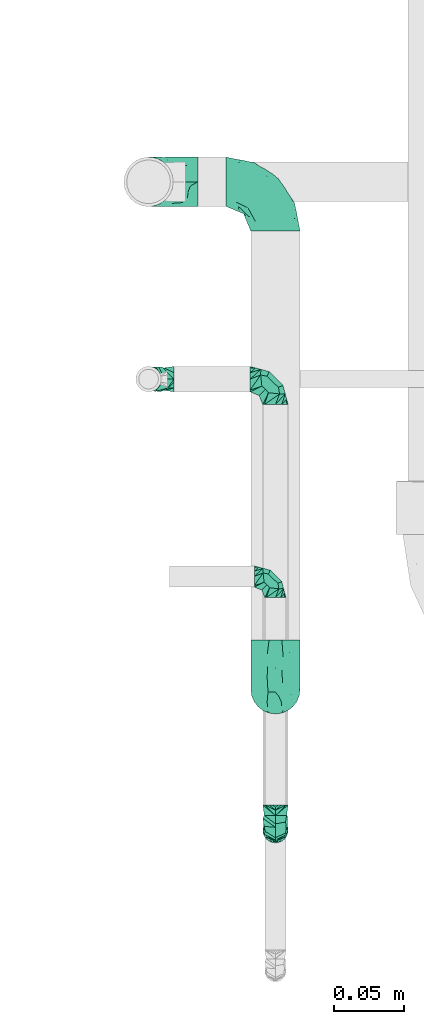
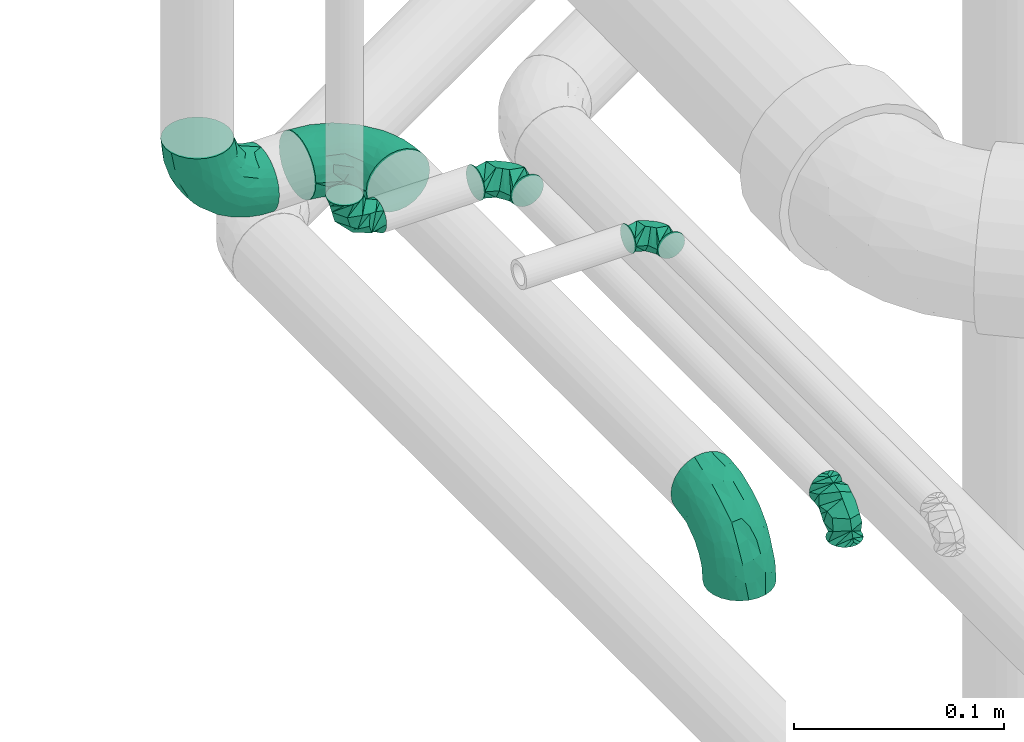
# One storey, part 70 of 108: 7 flow fittings.
"""IFC2X3 building model written with IfcOpenShell, lengths in millimetres."""

from ifc_helpers import new_model, entity, si_unit, converted_unit, derived_unit, direction, frame, origin_with_axes, place, context, subcontext, project, spatial, open_shell, surface_model, source, transform, mapped, type_object, element, save


model = new_model("IFC2X3")

# Units and contexts
model_context = context("Model", 3, precision=0.01, world=frame((0.0, 4.29681676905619e-09, 0.0)), true_north=direction((4.01073788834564e-13, 1.0)))
plan_context = context("Plan", 3, precision=0.01, world=frame((0.0, 4.29681676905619e-09, 0.0)), true_north=direction((4.01073788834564e-13, 1.0)))
body_context = subcontext(model_context, "Body", "Model", "MODEL_VIEW")
ifc_project = project(units=[converted_unit("PLANEANGLEUNIT", "DEGREE", entity("IfcPositiveLengthMeasure", 0.0174532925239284), si_unit("PLANEANGLEUNIT", "RADIAN"), dimensions=[0, 0, 0, 0, 0, 0, 0]), si_unit("AREAUNIT", "SQUARE_METRE"), si_unit("LENGTHUNIT", "METRE", prefix="MILLI"), si_unit("MASSUNIT", "GRAM", prefix="KILO"), si_unit("POWERUNIT", "WATT"), si_unit("PRESSUREUNIT", "PASCAL", prefix="KILO"), si_unit("FORCEUNIT", "NEWTON", prefix="KILO"), si_unit("ELECTRICVOLTAGEUNIT", "VOLT"), si_unit("ELECTRICCURRENTUNIT", "AMPERE"), si_unit("THERMODYNAMICTEMPERATUREUNIT", "DEGREE_CELSIUS"), si_unit("TIMEUNIT", "SECOND"), si_unit("VOLUMEUNIT", "CUBIC_METRE"), derived_unit("LINEARVELOCITYUNIT", [(si_unit("LENGTHUNIT", "METRE"), 1), (si_unit("TIMEUNIT", "SECOND"), -1)]), derived_unit("VOLUMETRICFLOWRATEUNIT", [(si_unit("VOLUMEUNIT", "CUBIC_METRE"), 1), (si_unit("TIMEUNIT", "SECOND"), -1)]), derived_unit("THERMALTRANSMITTANCEUNIT", [(si_unit("POWERUNIT", "WATT"), 1), (si_unit("THERMODYNAMICTEMPERATUREUNIT", "KELVIN"), -1), (si_unit("AREAUNIT", "SQUARE_METRE"), -1)]), derived_unit("SOUNDPRESSUREUNIT", [(si_unit("PRESSUREUNIT", "PASCAL"), 1)])], contexts=[model_context, plan_context])

# Site, building, storey
site_placement = place(None, frame((0.0, -4.29681676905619e-09, 0.0), z_axis=(0.0, 0.0, 1.0), x_axis=(1.0, 0.0, 0.0)))
site = spatial("IfcSite", under=ifc_project, at=site_placement, CompositionType="ELEMENT")
building_placement = place(site_placement, frame((0.0, 4.29681676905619e-09, 0.0), z_axis=(0.0, 0.0, 1.0), x_axis=(1.0, 0.0, 0.0)))
building = spatial("IfcBuilding", under=site, at=building_placement, Name="mc-building", CompositionType="ELEMENT")
storey_placement = place(building_placement, frame((0.0, 0.0, 210200.0), z_axis=(0.0, 0.0, 1.0), x_axis=(1.0, 0.0, 0.0)))
storey = spatial("IfcBuildingStorey", under=building, at=storey_placement, Name="Nivå F - 0,7 m", CompositionType="ELEMENT", Elevation=210200.0)

# Flow fittings
pipe_fitting_type = type_object("IfcPipeFittingType", Name="magi_pipe_elbow_short_001", PredefinedType="BEND")
shared_shape_1 = source(origin_with_axes(), body_context, "Body", "SurfaceModel", [
    surface_model("IfcShellBasedSurfaceModel", [(-15.0, 0.0, -7.5), (-15.0, -6.49519, -3.75), (-15.0, 1.94114, -7.24444), (-15.0, 3.75, -6.49519), (-15.0, 5.3033, -5.3033), (-15.0, 7.24444, -1.94114), (-15.0, 6.49519, -3.75), (-15.0, -5.3033, -5.3033), (-15.0, -3.75, -6.49519), (-15.0, -1.94114, -7.24444), (-15.0, -7.24444, -1.94114), (-15.0, -7.5, 0.0), (-15.0, -6.49519, 3.75), (-15.0, 7.24444, 1.94114), (-15.0, 6.49519, 3.75), (-15.0, 3.75, 6.49519), (-15.0, 1.94114, 7.24444), (-15.0, 5.3033, 5.3033), (-15.0, -5.3033, 5.3033), (-15.0, -7.24444, 1.94114), (-15.0, -1.94114, 7.24444), (-15.0, 0.0, 7.5), (-15.0, -3.75, 6.49519), (-15.0, 7.5, 0.0), (-1.94114, 15.0, -7.24444), (6.49519, 15.0, -3.75), (0.0, 15.0, -7.5), (-5.3033, 15.0, -5.3033), (-3.75, 15.0, -6.49519), (-6.49519, 15.0, -3.75), (-7.24444, 15.0, -1.94114), (3.75, 15.0, -6.49519), (5.3033, 15.0, -5.3033), (1.94114, 15.0, -7.24444), (7.5, 15.0, 0.0), (7.24444, 15.0, -1.94114), (-7.24444, 15.0, 1.94114), (6.49519, 15.0, 3.75), (-3.75, 15.0, 6.49519), (-6.49519, 15.0, 3.75), (-1.94114, 15.0, 7.24444), (-5.3033, 15.0, 5.3033), (5.3033, 15.0, 5.3033), (7.24444, 15.0, 1.94114), (3.75, 15.0, 6.49519), (0.0, 15.0, 7.5), (1.94114, 15.0, 7.24444), (-7.5, 15.0, 0.0), (-13.40845, -7.07355, 0.0), (-8.7589, -2.47707, 6.60232), (-8.6338, -5.79418, 0.0), (-3.75, -4.48557, 0.0), (0.36779, -0.36779, 0.0), (2.42668, 1.69111, 0.0), (-2.25176, 0.98822, 6.3797), (-1.69111, -2.42668, 0.0), (-11.8169, -6.64709, 0.0), (-5.9304, 5.9304, 7.17811), (-4.11647, 8.02676, 7.20749), (2.47708, 8.7589, 6.60232), (1.67739, 4.87408, 5.99192), (4.48557, 3.75, 0.0), (-4.78013, -1.73268, 5.91836), (7.07355, 13.40845, 0.0), (6.64709, 11.8169, 0.0), (-8.02675, 4.11647, 7.20749), (-8.59835, 12.34835, 0.0), (-12.34835, 8.59835, 0.0), (-9.6967, 9.6967, 0.0), (5.79418, 8.6338, 0.0), (-8.7589, -2.47707, -6.60232), (-4.11647, 8.02676, -7.20749), (0.71542, 3.43733, -5.99192), (-2.23993, 1.78364, -6.69976), (2.47708, 8.7589, -6.60232), (-11.39207, 6.08032, -5.22727), (-7.08629, 1.82323, -7.49084), (-8.19523, 6.76007, -6.13545)], [open_shell([[[0, 1, 2]], [[3, 2, 4]], [[5, 6, 4]], [[4, 2, 1]], [[5, 4, 1]], [[7, 1, 8]], [[9, 8, 1]], [[10, 11, 1]], [[0, 9, 1]], [[11, 12, 1]], [[12, 5, 1]], [[13, 5, 12]], [[14, 13, 15]], [[13, 16, 15]], [[17, 14, 15]], [[16, 13, 12]], [[12, 18, 16]], [[12, 11, 19]], [[20, 21, 22]], [[18, 22, 21]], [[16, 18, 21]], [[13, 23, 5]], [[24, 25, 26]], [[27, 24, 28]], [[27, 29, 30]], [[25, 24, 27]], [[25, 27, 30]], [[31, 25, 32]], [[25, 31, 33]], [[25, 34, 35]], [[25, 33, 26]], [[30, 34, 25]], [[30, 36, 34]], [[34, 36, 37]], [[38, 36, 39]], [[38, 40, 36]], [[38, 39, 41]], [[37, 36, 40]], [[40, 42, 37]], [[43, 34, 37]], [[44, 45, 46]], [[45, 44, 42]], [[45, 42, 40]], [[36, 30, 47]], [[19, 48, 12]], [[49, 50, 51]], [[52, 53, 54]], [[54, 55, 52]], [[22, 18, 56]], [[12, 56, 18]], [[57, 54, 58]], [[22, 50, 20]], [[21, 20, 50]], [[59, 60, 61]], [[59, 58, 60]], [[55, 54, 62]], [[21, 50, 49]], [[21, 49, 16]], [[62, 49, 51]], [[62, 51, 55]], [[37, 63, 43]], [[49, 15, 16]], [[64, 63, 37]], [[13, 65, 23]], [[14, 17, 49]], [[54, 65, 62]], [[15, 49, 17]], [[57, 58, 66]], [[67, 57, 68]], [[53, 60, 54]], [[46, 45, 69]], [[69, 44, 46]], [[41, 59, 38]], [[40, 59, 45]], [[42, 44, 64]], [[54, 60, 58]], [[64, 44, 69]], [[61, 60, 53]], [[43, 63, 34]], [[59, 61, 69]], [[58, 47, 66]], [[22, 56, 50]], [[54, 57, 65]], [[49, 65, 14]], [[36, 47, 58]], [[64, 37, 42]], [[39, 36, 58]], [[14, 65, 13]], [[41, 39, 59]], [[19, 11, 48]], [[39, 58, 59]], [[48, 56, 12]], [[38, 59, 40]], [[59, 69, 45]], [[49, 62, 65]], [[57, 67, 65]], [[66, 68, 57]], [[67, 23, 65]], [[70, 50, 0]], [[71, 72, 73]], [[74, 71, 29]], [[70, 2, 3]], [[70, 51, 50]], [[35, 34, 63]], [[75, 4, 6]], [[75, 5, 23]], [[6, 5, 75]], [[51, 76, 55]], [[75, 23, 67]], [[70, 4, 75]], [[48, 11, 10]], [[8, 56, 7]], [[0, 50, 9]], [[51, 70, 76]], [[56, 8, 50]], [[8, 9, 50]], [[70, 0, 2]], [[66, 47, 71]], [[52, 72, 53]], [[4, 70, 3]], [[70, 75, 76]], [[73, 52, 55]], [[71, 68, 66]], [[61, 53, 72]], [[31, 64, 69]], [[30, 71, 47]], [[27, 74, 29]], [[56, 1, 7]], [[28, 24, 74]], [[63, 64, 25]], [[56, 48, 1]], [[28, 74, 27]], [[1, 48, 10]], [[26, 74, 24]], [[33, 69, 26]], [[29, 71, 30]], [[32, 64, 31]], [[69, 33, 31]], [[68, 71, 77]], [[74, 26, 69]], [[25, 35, 63]], [[61, 72, 74]], [[61, 74, 69]], [[67, 77, 75]], [[74, 72, 71]], [[25, 64, 32]], [[76, 77, 73]], [[75, 77, 76]], [[77, 71, 73]], [[55, 76, 73]], [[72, 52, 73]], [[77, 67, 68]]])]),
])
flow_fitting_placement = place(storey_placement, frame((324128.525, 463170.0, 2783.44021999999), z_axis=(-0.000515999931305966, 0.0, 0.999999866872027), x_axis=(0.0, 1.0, 0.0)))
element("IfcFlowFitting", 1, at=flow_fitting_placement, inside=storey, type_object=pipe_fitting_type, Name="magi_pipe_elbow_short_001", context=body_context, shape_type="MappedRepresentation", body=[
    mapped(shared_shape_1, transform((0.0, 0.0, 0.0), scale=1.0)),
])
shared_shape_2 = source(origin_with_axes(), body_context, "Body", "SurfaceModel", [
    surface_model("IfcShellBasedSurfaceModel", [(-18.0, 4.5, -7.79423), (-18.0, 2.32937, -8.69333), (-18.0, 0.0, -9.0), (-18.0, -6.36396, -6.36396), (-18.0, 8.69333, -2.32937), (-18.0, 7.79423, -4.5), (-18.0, 6.36396, -6.36396), (-18.0, -4.5, -7.79423), (-18.0, -2.32937, -8.69333), (-18.0, -7.79423, -4.5), (-18.0, -8.69333, -2.32937), (-18.0, -9.0, 0.0), (-18.0, 8.69333, 2.32937), (-18.0, -8.69333, 2.32937), (-18.0, 7.79423, 4.5), (-18.0, 6.36396, 6.36396), (-18.0, 2.32937, 8.69333), (-18.0, 4.5, 7.79423), (-18.0, -7.79423, 4.5), (-18.0, -6.36396, 6.36396), (-18.0, -4.5, 7.79423), (-18.0, -2.32937, 8.69333), (-18.0, 0.0, 9.0), (-18.0, 9.0, 0.0), (0.0, 18.0, -9.0), (-2.32937, 18.0, -8.69333), (-4.5, 18.0, -7.79423), (6.36396, 18.0, -6.36396), (-7.79423, 18.0, -4.5), (-8.69333, 18.0, -2.32937), (-6.36396, 18.0, -6.36396), (8.69333, 18.0, 2.32937), (9.0, 18.0, 0.0), (2.32937, 18.0, -8.69333), (4.5, 18.0, -7.79423), (8.69333, 18.0, -2.32937), (7.79423, 18.0, -4.5), (-8.69333, 18.0, 2.32937), (-6.36396, 18.0, 6.36396), (-7.79423, 18.0, 4.5), (-4.5, 18.0, 7.79423), (-2.32937, 18.0, 8.69333), (7.79423, 18.0, 4.5), (6.36396, 18.0, 6.36396), (2.32937, 18.0, 8.69333), (4.5, 18.0, 7.79423), (0.0, 18.0, 9.0), (-9.0, 18.0, 0.0), (-16.09014, -8.48825, 0.0), (-10.51068, -2.97249, 7.92278), (-10.36056, -6.95302, 0.0), (-4.5, -5.38269, 0.0), (0.44134, -0.44134, 0.0), (2.91201, 2.02933, 0.0), (-2.70211, 1.18586, 7.65564), (-2.02933, -2.91201, 0.0), (-14.18028, -7.97651, 0.0), (-7.11648, 7.11648, 8.61373), (-4.93977, 9.63211, 8.64898), (2.97249, 10.51068, 7.92278), (2.01286, 5.84889, 7.1903), (5.38269, 4.5, 0.0), (-5.73616, -2.07922, 7.10204), (8.48825, 16.09014, 0.0), (7.97651, 14.18028, 0.0), (-9.63211, 4.93977, 8.64898), (-10.31802, 14.81802, 0.0), (-14.81802, 10.31802, 0.0), (-11.63604, 11.63604, 0.0), (6.95302, 10.36056, 0.0), (-10.51068, -2.97249, -7.92278), (-4.93977, 9.63211, -8.64898), (0.8585, 4.1248, -7.1903), (-2.68792, 2.14037, -8.03971), (2.97249, 10.51068, -7.92278), (-13.67048, 7.29638, -6.27272), (-8.50355, 2.18787, -8.98901), (-9.83427, 8.11209, -7.36254)], [open_shell([[[0, 1, 2]], [[0, 2, 3]], [[0, 4, 5]], [[6, 0, 5]], [[4, 0, 3]], [[7, 3, 8]], [[3, 2, 8]], [[9, 10, 3]], [[11, 3, 10]], [[3, 11, 4]], [[11, 12, 4]], [[12, 11, 13]], [[14, 12, 15]], [[16, 17, 15]], [[13, 15, 12]], [[15, 18, 16]], [[18, 19, 16]], [[15, 13, 18]], [[20, 21, 19]], [[22, 19, 21]], [[16, 19, 22]], [[23, 4, 12]], [[24, 25, 26]], [[27, 24, 26]], [[28, 29, 26]], [[28, 26, 30]], [[31, 32, 26]], [[33, 27, 34]], [[33, 24, 27]], [[27, 35, 36]], [[35, 27, 32]], [[26, 32, 27]], [[26, 29, 37]], [[31, 26, 37]], [[38, 37, 39]], [[38, 40, 41]], [[37, 38, 31]], [[41, 42, 38]], [[41, 43, 42]], [[42, 31, 38]], [[43, 44, 45]], [[44, 43, 46]], [[46, 43, 41]], [[37, 29, 47]], [[13, 48, 18]], [[49, 50, 51]], [[52, 53, 54]], [[54, 55, 52]], [[20, 19, 56]], [[18, 56, 19]], [[57, 54, 58]], [[20, 50, 21]], [[22, 21, 50]], [[59, 60, 61]], [[59, 58, 60]], [[55, 54, 62]], [[22, 50, 49]], [[22, 49, 16]], [[62, 49, 51]], [[62, 51, 55]], [[42, 63, 31]], [[49, 17, 16]], [[64, 63, 42]], [[12, 65, 23]], [[14, 15, 49]], [[54, 65, 62]], [[17, 49, 15]], [[57, 58, 66]], [[67, 57, 68]], [[53, 60, 54]], [[44, 46, 69]], [[69, 45, 44]], [[38, 59, 40]], [[41, 59, 46]], [[43, 45, 64]], [[54, 60, 58]], [[64, 45, 69]], [[61, 60, 53]], [[31, 63, 32]], [[59, 61, 69]], [[58, 47, 66]], [[20, 56, 50]], [[54, 57, 65]], [[49, 65, 14]], [[37, 47, 58]], [[64, 42, 43]], [[39, 37, 58]], [[14, 65, 12]], [[38, 39, 59]], [[13, 11, 48]], [[39, 58, 59]], [[48, 56, 18]], [[40, 59, 41]], [[59, 69, 46]], [[49, 62, 65]], [[57, 67, 65]], [[66, 68, 57]], [[67, 23, 65]], [[70, 50, 2]], [[71, 72, 73]], [[74, 71, 28]], [[70, 1, 0]], [[70, 51, 50]], [[35, 32, 63]], [[75, 6, 5]], [[75, 4, 23]], [[5, 4, 75]], [[51, 76, 55]], [[75, 23, 67]], [[70, 6, 75]], [[48, 11, 10]], [[7, 56, 3]], [[2, 50, 8]], [[51, 70, 76]], [[56, 7, 50]], [[7, 8, 50]], [[70, 2, 1]], [[66, 47, 71]], [[52, 72, 53]], [[6, 70, 0]], [[70, 75, 76]], [[73, 52, 55]], [[71, 68, 66]], [[61, 53, 72]], [[34, 64, 69]], [[29, 71, 47]], [[30, 74, 28]], [[56, 9, 3]], [[26, 25, 74]], [[63, 64, 36]], [[56, 48, 9]], [[26, 74, 30]], [[9, 48, 10]], [[24, 74, 25]], [[33, 69, 24]], [[28, 71, 29]], [[27, 64, 34]], [[69, 33, 34]], [[68, 71, 77]], [[74, 24, 69]], [[36, 35, 63]], [[61, 72, 74]], [[61, 74, 69]], [[67, 77, 75]], [[74, 72, 71]], [[36, 64, 27]], [[76, 77, 73]], [[75, 77, 76]], [[77, 71, 73]], [[55, 76, 73]], [[72, 52, 73]], [[77, 67, 68]]])]),
])
for number, where, z_axis, x_axis, name in (
    (2, (324128.525, 463310.0, 2732.14094000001), (0.0, 0.0, 1.0), (0.0, 1.0, 0.0), "magi_pipe_elbow_short_001"),
    (3, (324038.4875, 463310.0, 2732.14094000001), (0.0, 1.0, 0.0), (-1.0, 0.0, 0.0), "magi_pipe_elbow_short_001"),
    (4, (324128.525, 462990.0, 2732.14094000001), (1.0, 0.0, 0.0), (0.0, -1.0, 0.0), "magi_pipe_elbow_short_001"),
):
    element("IfcFlowFitting", number, at=place(storey_placement, frame(where, z_axis=z_axis, x_axis=x_axis)), inside=storey, type_object=pipe_fitting_type, Name=name, context=body_context, shape_type="MappedRepresentation", body=[
        mapped(shared_shape_2, transform((0.0, 0.0, 0.0), scale=1.0)),
    ])
shared_shape_3 = source(origin_with_axes(), body_context, "Body", "SurfaceModel", [
    surface_model("IfcShellBasedSurfaceModel", [(-35.0, 8.75, -15.15544), (-35.0, 4.52933, -16.9037), (-35.0, 0.0, -17.5), (-35.0, 12.37437, -12.37437), (-35.0, 15.15544, -8.75), (-35.0, -8.75, -15.15544), (-35.0, -8.75, 15.15544), (-35.0, -12.37437, -12.37437), (-35.0, -4.52933, -16.9037), (-35.0, -16.9037, -4.52933), (-35.0, -17.5, 0.0), (-35.0, -15.15544, -8.75), (-35.0, -16.9037, 4.52933), (-35.0, 17.5, 0.0), (-35.0, 16.9037, -4.52933), (-35.0, 12.37437, 12.37437), (-35.0, 16.9037, 4.52933), (-35.0, 15.15544, 8.75), (-35.0, 4.52933, 16.9037), (-35.0, 8.75, 15.15544), (-35.0, 0.0, 17.5), (-35.0, -15.15544, 8.75), (-35.0, -12.37437, 12.37437), (-35.0, -4.52933, 16.9037), (0.0, 35.0, -17.5), (-4.52933, 35.0, -16.9037), (-8.75, 35.0, -15.15544), (-16.9037, 35.0, -4.52933), (-15.15544, 35.0, -8.75), (-12.37437, 35.0, -12.37437), (12.37437, 35.0, -12.37437), (16.9037, 35.0, 4.52933), (8.75, 35.0, -15.15544), (4.52933, 35.0, -16.9037), (15.15544, 35.0, -8.75), (17.5, 35.0, 0.0), (16.9037, 35.0, -4.52933), (-16.9037, 35.0, 4.52933), (-12.37437, 35.0, 12.37437), (-15.15544, 35.0, 8.75), (-8.75, 35.0, 15.15544), (-4.52933, 35.0, 16.9037), (12.37437, 35.0, 12.37437), (15.15544, 35.0, 8.75), (8.75, 35.0, 15.15544), (0.0, 35.0, 17.5), (4.52933, 35.0, 16.9037), (-17.5, 35.0, 0.0), (-25.67415, -13.59559, 9.82403), (-22.98078, -10.09634, 13.04024), (-24.95456, -15.50184, 0.0), (-15.46973, -11.14466, 8.83253), (-23.25837, -15.27419, 5.4579), (15.27419, 23.25837, 5.4579), (12.34847, 13.7089, 4.48617), (13.50368, 14.90912, 0.0), (7.98773, 14.17445, 11.96929), (10.09634, 22.98078, 13.04024), (4.24731, 13.52067, 14.53865), (-25.72197, -6.61751, 15.74462), (-26.7344, -2.31827, 17.20071), (-24.50568, 2.68251, 17.47017), (-27.44516, 14.56448, 11.47495), (-25.07215, 18.29076, 8.00088), (-30.6355, 16.43299, 7.25145), (-6.39301, -7.81339, 0.0), (-13.7089, -12.34847, 4.48617), (-14.90912, -13.50368, 0.0), (-18.44681, 19.54381, 12.39604), (-6.53243, 30.18634, 16.39188), (-2.39845, 26.17753, 17.45702), (-30.27731, 10.5977, 14.25942), (-1.50603, -2.9583, 7.8851), (-0.29331, 0.3611, 10.4535), (-5.9488, -4.19077, 10.78186), (-4.56799, 11.72104, 17.18321), (-8.69539, 3.21041, 16.34147), (-1.78778, 9.45477, 16.08229), (-18.0168, 25.63227, 7.92136), (-27.12223, 20.76308, 0.0), (-29.14442, 17.91065, 4.40976), (-26.97638, 6.86342, 16.53125), (-6.08206, 17.20948, 17.4686), (-12.9625, 12.9625, 17.07479), (-10.42039, 7.64736, 17.40986), (-3.126, 3.126, 14.30773), (-13.52067, -4.24732, 14.53865), (-17.42289, -0.15705, 16.96193), (11.14466, 15.46973, 8.83253), (13.59559, 25.67415, 9.82403), (6.61751, 25.72197, 15.74462), (2.31827, 26.7344, 17.20071), (-14.17445, -7.98773, 11.96929), (15.50184, 24.95456, 0.0), (-7.56843, 23.71293, 16.6663), (-11.05874, 27.1034, 14.50532), (-13.23678, 18.91785, 15.59535), (-14.3786, 23.24943, 13.39158), (-18.69025, 15.70341, 14.54296), (-23.93728, 20.79474, 4.17293), (-22.62563, 22.62563, 0.0), (-19.21704, 26.38748, 4.0702), (-14.44673, 27.90403, 11.42459), (-19.23031, 7.49607, 17.18683), (-17.1721, 4.28825, 17.49253), (-18.60453, 11.87421, 16.18647), (-10.19404, 18.16587, 16.76415), (0.15705, 17.42289, 16.96193), (-24.0983, 11.8793, 14.7368), (3.98505, 6.07834, 11.08478), (-8.30597, -7.81197, 8.21438), (1.03907, -2.27302, 4.73653), (5.31423, 3.11691, 6.11155), (5.42771, 1.81659, 2.62257), (9.0136, 7.29975, 4.13354), (-20.76308, 27.12223, 0.0), (8.78644, 9.07824, 7.34478), (-4.71659, -6.95924, 5.08102), (2.12311, -2.12311, 0.0), (7.81339, 6.39301, 0.0), (-27.70384, 2.21276, -17.44304), (-15.139, 25.6163, -11.67774), (-29.4629, -13.93098, -10.16755), (-26.92794, 6.87113, -16.53331), (-23.88622, 20.75741, -4.41333), (-14.29664, -4.41648, -14.68212), (-15.19601, -0.21829, -16.64455), (-7.03127, -0.29284, -14.33943), (-25.40695, 11.47437, -14.63597), (-27.66913, 14.50571, -11.45035), (10.45516, 25.31793, -13.21276), (6.03943, 22.16202, -15.56409), (6.89903, 29.55572, -15.927), (-21.10543, 16.03689, -13.19848), (12.97763, 21.9883, -9.47862), (12.99032, 16.23155, -5.74578), (10.09843, 13.35052, -8.97101), (-16.20755, 20.33949, -13.47528), (-12.46256, 21.39865, -15.19771), (-16.17359, 16.17359, -15.36562), (-26.47317, -15.80391, 0.0), (-25.52983, -15.66647, -5.70515), (13.93098, 29.4629, -10.16755), (15.66647, 25.52983, -5.70515), (-7.61553, -8.60518, -5.85642), (-16.23155, -12.99032, -5.74578), (-25.31793, -10.45516, -13.21276), (0.17109, 0.42769, -10.06227), (-5.90918, -5.51991, -9.20861), (-5.32113, -2.45619, -11.9452), (-21.9883, -12.97763, -9.47862), (0.73672, 8.22048, -14.5942), (0.21829, 15.19601, -16.64455), (3.61692, 14.93995, -15.28797), (-25.7831, -2.20653, -17.18003), (-29.55572, -6.89903, -15.927), (-19.09867, -7.99059, -13.74068), (2.20653, 25.7831, -17.18003), (-29.66035, 18.06344, -2.9959), (1.76053, -1.33292, -5.27593), (-17.15897, 27.77164, -7.62747), (-18.31862, 28.40001, -3.89769), (-13.35052, -10.09843, -8.97101), (-6.17792, 6.17792, -16.5247), (-21.26622, 20.80683, -8.58416), (-2.21276, 27.70384, -17.44304), (-7.14365, 25.46075, -16.59474), (-10.98399, 27.47352, -14.47678), (-22.16202, -6.03943, -15.56409), (3.03601, 6.10561, -11.96956), (7.13869, 13.06641, -12.24206), (5.77868, 6.1646, -9.10678), (-4.13696, 19.27897, -17.49622), (8.60518, 7.61553, -5.85642), (-9.46274, 10.21159, -17.49007), (-10.35485, 16.58999, -16.97913), (-17.27815, 10.12754, -16.92218), (-27.97841, 17.20134, -7.38292), (15.80391, 26.47317, 0.0), (-19.27898, 4.13695, -17.49622), (-20.06282, 28.81281, 0.0), (-13.06641, -7.13869, -12.24206), (-19.51618, 19.81971, -11.35476)], [open_shell([[[0, 1, 2]], [[3, 0, 2]], [[4, 3, 5]], [[2, 5, 3]], [[6, 4, 5]], [[7, 6, 5]], [[2, 8, 5]], [[9, 10, 11]], [[11, 10, 12]], [[11, 12, 7]], [[13, 14, 4]], [[4, 15, 16]], [[17, 16, 15]], [[18, 19, 15]], [[4, 6, 15]], [[15, 20, 18]], [[21, 22, 12]], [[6, 12, 22]], [[23, 20, 6]], [[6, 7, 12]], [[6, 20, 15]], [[13, 4, 16]], [[24, 25, 26]], [[24, 26, 27]], [[28, 27, 26]], [[28, 26, 29]], [[30, 24, 31]], [[24, 32, 33]], [[24, 30, 32]], [[34, 35, 36]], [[31, 35, 34]], [[34, 30, 31]], [[31, 24, 27]], [[31, 27, 37]], [[38, 37, 39]], [[38, 40, 41]], [[37, 38, 31]], [[41, 31, 38]], [[31, 42, 43]], [[42, 31, 44]], [[44, 45, 46]], [[45, 44, 31]], [[31, 41, 45]], [[37, 27, 47]], [[22, 48, 49]], [[12, 10, 50]], [[51, 48, 52]], [[53, 54, 55]], [[48, 22, 21]], [[12, 52, 21]], [[56, 57, 58]], [[49, 6, 22]], [[49, 59, 6]], [[20, 60, 61]], [[62, 63, 64]], [[65, 66, 67]], [[57, 42, 44]], [[62, 68, 63]], [[41, 69, 70]], [[19, 71, 15]], [[23, 60, 20]], [[72, 73, 74]], [[75, 76, 77]], [[15, 62, 17]], [[39, 37, 78]], [[79, 13, 80]], [[64, 16, 17]], [[20, 61, 18]], [[18, 81, 19]], [[82, 83, 84]], [[74, 85, 86]], [[59, 86, 87]], [[88, 89, 57]], [[90, 44, 46]], [[43, 53, 31]], [[46, 45, 91]], [[54, 53, 88]], [[43, 89, 53]], [[92, 86, 49]], [[89, 43, 42]], [[6, 59, 23]], [[53, 55, 93]], [[93, 31, 53]], [[66, 52, 67]], [[94, 82, 70]], [[95, 96, 94]], [[97, 98, 96]], [[79, 99, 100]], [[40, 38, 95]], [[101, 100, 99]], [[68, 78, 63]], [[41, 40, 69]], [[13, 16, 80]], [[95, 94, 69]], [[78, 101, 99]], [[38, 102, 95]], [[70, 45, 41]], [[97, 95, 102]], [[12, 50, 52]], [[90, 57, 44]], [[57, 90, 58]], [[81, 18, 61]], [[103, 104, 84]], [[105, 81, 103]], [[38, 39, 102]], [[106, 96, 83]], [[94, 106, 82]], [[91, 70, 107]], [[71, 62, 15]], [[62, 108, 98]], [[86, 59, 49]], [[67, 52, 50]], [[60, 59, 87]], [[92, 49, 51]], [[86, 85, 76]], [[91, 90, 46]], [[35, 31, 93]], [[107, 77, 58]], [[107, 58, 90]], [[58, 85, 109]], [[110, 74, 92]], [[72, 74, 110]], [[66, 51, 52]], [[72, 111, 112]], [[113, 114, 112]], [[56, 88, 57]], [[52, 48, 21]], [[49, 48, 51]], [[57, 89, 42]], [[53, 89, 88]], [[103, 81, 61]], [[71, 81, 108]], [[16, 64, 80]], [[63, 78, 99]], [[47, 115, 101]], [[101, 115, 100]], [[39, 78, 102]], [[68, 102, 78]], [[97, 96, 95]], [[105, 98, 108]], [[103, 84, 83]], [[107, 70, 82]], [[76, 84, 87]], [[82, 84, 75]], [[70, 91, 45]], [[90, 91, 107]], [[59, 60, 23]], [[61, 60, 87]], [[73, 85, 74]], [[109, 112, 116]], [[103, 61, 104]], [[105, 103, 83]], [[96, 105, 83]], [[81, 105, 108]], [[96, 98, 105]], [[62, 98, 68]], [[61, 87, 104]], [[87, 84, 104]], [[86, 76, 87]], [[77, 76, 85]], [[58, 77, 85]], [[75, 77, 107]], [[82, 75, 107]], [[76, 75, 84]], [[81, 71, 19]], [[62, 71, 108]], [[95, 69, 40]], [[70, 69, 94]], [[62, 64, 17]], [[80, 63, 99]], [[63, 80, 64]], [[80, 99, 79]], [[66, 65, 117]], [[110, 66, 117]], [[112, 114, 116]], [[118, 117, 65]], [[110, 92, 51]], [[112, 111, 113]], [[119, 55, 54]], [[74, 86, 92]], [[58, 109, 56]], [[116, 56, 109]], [[66, 110, 51]], [[72, 110, 117]], [[111, 72, 117]], [[73, 112, 109]], [[117, 118, 111]], [[113, 111, 118]], [[118, 119, 113]], [[114, 119, 54]], [[119, 114, 113]], [[116, 54, 88]], [[54, 116, 114]], [[116, 88, 56]], [[112, 73, 72]], [[85, 73, 109]], [[78, 37, 101]], [[47, 101, 37]], [[102, 68, 97]], [[97, 68, 98]], [[82, 106, 83]], [[94, 96, 106]], [[1, 120, 2]], [[28, 29, 121]], [[7, 122, 11]], [[0, 123, 1]], [[100, 124, 79]], [[125, 126, 127]], [[128, 3, 129]], [[130, 131, 132]], [[128, 129, 133]], [[134, 135, 136]], [[137, 138, 139]], [[128, 0, 3]], [[67, 140, 141]], [[134, 142, 143]], [[141, 9, 11]], [[144, 65, 145]], [[146, 7, 5]], [[147, 148, 149]], [[145, 141, 150]], [[151, 152, 153]], [[154, 8, 2]], [[5, 155, 146]], [[150, 146, 156]], [[155, 5, 8]], [[143, 135, 134]], [[33, 157, 24]], [[13, 79, 158]], [[148, 159, 144]], [[160, 161, 27]], [[145, 162, 144]], [[163, 152, 151]], [[27, 28, 160]], [[121, 164, 160]], [[32, 30, 130]], [[24, 165, 25]], [[25, 165, 166]], [[142, 30, 34]], [[29, 26, 167]], [[124, 161, 164]], [[157, 33, 132]], [[155, 154, 168]], [[123, 0, 128]], [[169, 170, 171]], [[172, 157, 152]], [[25, 166, 26]], [[132, 33, 32]], [[142, 130, 30]], [[168, 154, 126]], [[136, 135, 173]], [[133, 137, 139]], [[3, 4, 129]], [[170, 131, 130]], [[34, 36, 143]], [[172, 174, 175]], [[176, 123, 128]], [[158, 177, 14]], [[135, 55, 119]], [[167, 26, 166]], [[175, 166, 172]], [[137, 167, 138]], [[122, 141, 11]], [[140, 10, 9]], [[36, 35, 178]], [[170, 130, 134]], [[152, 157, 131]], [[165, 157, 172]], [[153, 170, 151]], [[152, 163, 174]], [[168, 125, 156]], [[122, 146, 150]], [[120, 154, 2]], [[179, 174, 126]], [[179, 126, 154]], [[126, 163, 127]], [[162, 145, 150]], [[140, 9, 141]], [[36, 178, 143]], [[55, 143, 178]], [[177, 129, 4]], [[128, 133, 139]], [[176, 128, 139]], [[120, 123, 179]], [[121, 160, 28]], [[161, 100, 180]], [[166, 175, 138]], [[121, 29, 167]], [[161, 47, 27]], [[79, 124, 158]], [[124, 164, 177]], [[161, 124, 100]], [[136, 171, 170]], [[127, 163, 151]], [[147, 171, 159]], [[148, 144, 162]], [[127, 151, 169]], [[127, 181, 125]], [[129, 177, 164]], [[4, 14, 177]], [[159, 65, 144]], [[67, 141, 145]], [[143, 55, 135]], [[135, 119, 173]], [[123, 120, 1]], [[154, 120, 179]], [[157, 165, 24]], [[166, 165, 172]], [[172, 152, 174]], [[176, 139, 175]], [[126, 174, 163]], [[176, 174, 179]], [[174, 176, 175]], [[123, 176, 179]], [[150, 181, 162]], [[127, 149, 181]], [[181, 148, 162]], [[159, 148, 147]], [[171, 136, 173]], [[170, 134, 136]], [[159, 171, 173]], [[171, 147, 169]], [[169, 147, 149]], [[151, 170, 169]], [[164, 182, 129]], [[182, 121, 137]], [[181, 149, 148]], [[169, 149, 127]], [[182, 137, 133]], [[167, 137, 121]], [[166, 138, 167]], [[175, 139, 138]], [[129, 182, 133]], [[121, 182, 164]], [[161, 160, 164]], [[47, 161, 180]], [[177, 158, 124]], [[13, 158, 14]], [[130, 132, 32]], [[157, 132, 131]], [[143, 142, 34]], [[130, 142, 134]], [[154, 155, 8]], [[146, 155, 168]], [[146, 122, 7]], [[141, 122, 150]], [[152, 131, 153]], [[159, 119, 118]], [[67, 145, 65]], [[170, 153, 131]], [[119, 159, 173]], [[159, 118, 65]], [[156, 125, 181]], [[126, 125, 168]], [[150, 156, 181]], [[168, 156, 146]]])]),
])
for number, where, z_axis, x_axis, name in (
    (5, (324128.525, 463450.0, 2663.34624000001), (0.0, 0.0, 1.0), (0.0, 1.0, 0.0), "magi_pipe_elbow_short_001"),
    (6, (324038.4875, 463450.0, 2663.34624000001), (0.0, 1.0, 0.0), (-1.0, 0.0, 0.0), "magi_pipe_elbow_short_001"),
    (7, (324128.525, 463090.0, 2663.34624000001), (1.0, 0.0, 0.0), (0.0, -1.0, 0.0), "magi_pipe_elbow_short_001"),
):
    element("IfcFlowFitting", number, at=place(storey_placement, frame(where, z_axis=z_axis, x_axis=x_axis)), inside=storey, type_object=pipe_fitting_type, Name=name, context=body_context, shape_type="MappedRepresentation", body=[
        mapped(shared_shape_3, transform((0.0, 0.0, 0.0), scale=1.0)),
    ])

save(model, "model.ifc")
